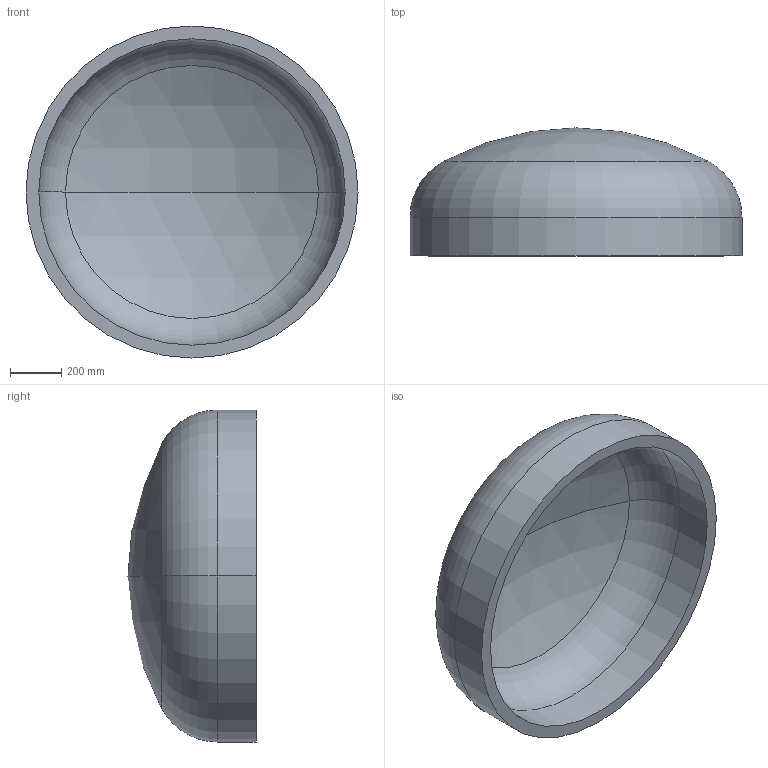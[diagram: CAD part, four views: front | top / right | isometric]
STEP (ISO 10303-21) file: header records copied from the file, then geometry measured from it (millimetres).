
FILE_DESCRIPTION (( 'STEP AP203' ), '1' );
FILE_NAME ('DIN 28013 Korbbogenform_-_Boden DIN 28013 - 1300 x 150 - I - s=50.step', '2016-07-01T09:54:29', ( '' ), ( '' ), 'SwSTEP 2.0', 'SolidWorks 2013', '' );
FILE_SCHEMA (( 'CONFIG_CONTROL_DESIGN' ));
Length unit declared in the file: millimetre
Products named in the file (1): DIN 28013 Korbbogenform_-_Boden DIN 28013 - 1300 x 150 - I - s=50
Bounding box: 1300 x 501.35 x 1300 mm (x, y, z)
Volume: 116877036.4 mm3; surface area: 4876665.8 mm2
Topology: 1 solids, 1 shells, 13 faces, 24 edges, 14 vertices
Faces by surface type: torus 4, cylinder 4, sphere 4, plane 1
Entity records: 407 total; most frequent: DIRECTION 72, CARTESIAN_POINT 52, ORIENTED_EDGE 48, AXIS2_PLACEMENT_3D 34, EDGE_CURVE 24, CIRCLE 20, VERTEX_POINT 14, EDGE_LOOP 14
